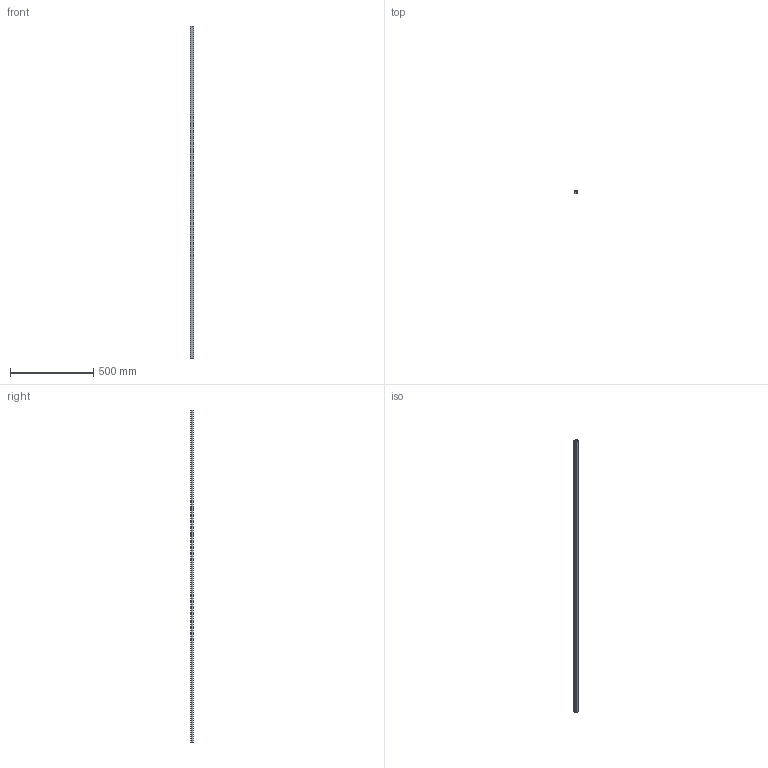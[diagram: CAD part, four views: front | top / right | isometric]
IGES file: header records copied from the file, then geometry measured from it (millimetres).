
Start section: SolidWorks IGES file using analytic representation for surfaces
Global section: file name: C:\Documents and Settings\ARGE\Desktop\yeni katalog tolgay düzenli\E kataloðu\ALPOLEN 1000 TCG ZÝNCÝR KIZAKLARI\207 TCG P12.IGS; native system: SolidWorks 2006 by SolidWorks Corporation; preprocessor: SolidWorks 2006 by SolidWorks Corporation; author: ARGE2; date: 060913.091125; units: millimetre
Bounding box: 21.5 x 17 x 2000 mm (x, y, z)
Surface area: 362019.2 mm2 (no closed solid volume)
Topology: 0 solids, 0 shells, 36 faces, 248 edges, 248 vertices
Faces by surface type: bspline 32, revolution 4
